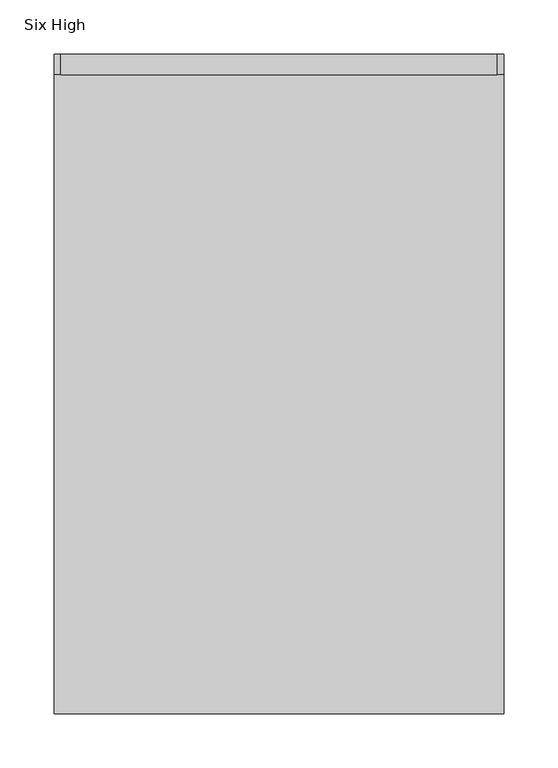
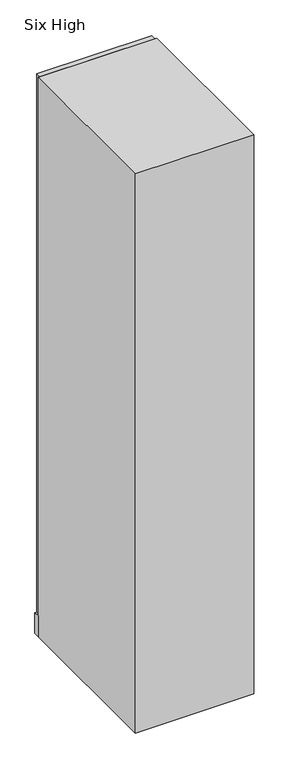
"""IFC4 building model written with IfcOpenShell, lengths in millimetres: furniture geometry, Haworth_Masters_Wardrobe_Tower : Six High."""

from ifc_helpers import new_model, si_unit, frame, origin, origin_with_axes, place, context, project, spatial, polyline, outline, extrude, faceted_brep, source, transform, mapped, element, save


def six_high_a225b862(model_context):
    return source(origin(), model_context, "Body", "SolidModel", [
        extrude(outline(polyline([(103.0827087, 381.0849755), (103.0827087, 362.0349755), (-300.1422913, 362.0349755), (-300.1422913, 381.0849755), (103.0827087, 381.0849755)])), frame((0.0, 0.0, 76.2), z_axis=(0.0, 0.0, 1.0), x_axis=(1.0, 0.0, 0.0)), (0.0, 0.0, 1.0), 1997.075),
        extrude(outline(polyline([(109.4327087, 381.0849755), (109.4327087, 362.0349755), (-306.4922913, 362.0349755), (-306.4922913, 381.0849755), (109.4327087, 381.0849755)])), origin_with_axes(), (0.0, 0.0, 1.0), 76.2),
        faceted_brep([(109.4327087, -228.5150245, 2073.275), (109.4327087, 362.0349755, 2073.275), (-306.4922913, 362.0349755, 2073.275), (-306.4922913, -228.5150245, 2073.275), (109.4327087, 362.0349755, 0.0), (109.4327087, -228.5150245, 0.0), (-306.4922913, -228.5150245, 0.0), (-306.4922913, 362.0349755, 0.0), (90.3827087, -209.4650245, 76.2), (-287.4422913, -209.4650245, 76.2), (-287.4422913, -209.4650245, 2054.225), (90.3827087, -209.4650245, 2054.225), (90.3827087, 362.0349755, 2054.225), (-287.4422913, 362.0349755, 2054.225), (-287.4422913, 362.0349755, 76.2), (90.3827087, 362.0349755, 76.2)], [[[0, 1, 2, 3]], [[4, 5, 6, 7]], [[3, 6, 5, 0]], [[2, 7, 6, 3]], [[8, 9, 10, 11]], [[0, 5, 4, 1]], [[1, 4, 7, 2], [12, 13, 14, 15]], [[15, 8, 11, 12]], [[14, 9, 8, 15]], [[13, 10, 9, 14]], [[12, 11, 10, 13]]]),
        extrude(outline(polyline([(109.4327087, -209.4650245), (90.3827087, -209.4650245), (90.3827087, 362.0349755), (109.4327087, 362.0349755), (109.4327087, -209.4650245)])), frame((0.0, 0.0, 76.2), z_axis=(0.0, 0.0, 1.0), x_axis=(1.0, 0.0, 0.0)), (0.0, 0.0, 1.0), 1978.025),
    ])


if __name__ == "__main__":
    model = new_model("IFC4")
    model_context = context("Model", 3, world=origin())
    ifc_project = project(units=[si_unit("LENGTHUNIT", "METRE", prefix="MILLI")], contexts=[model_context])
    site = spatial("IfcSite", under=ifc_project)
    building = spatial("IfcBuilding", under=site)
    placement = place(None, origin())
    six_high_shape = six_high_a225b862(model_context)
    element("IfcFurniture", 1, ObjectType="Haworth_Masters_Wardrobe_Tower : Six High", at=placement, inside=building, context=model_context, shape_type="MappedRepresentation", body=[
        mapped(six_high_shape, transform((0.0, 0.0, 0.0), x_axis=(1.0, 0.0, 0.0), y_axis=(0.0, 1.0, 0.0), z_axis=(0.0, 0.0, 1.0))),
    ])
    save(model, "model.ifc")
